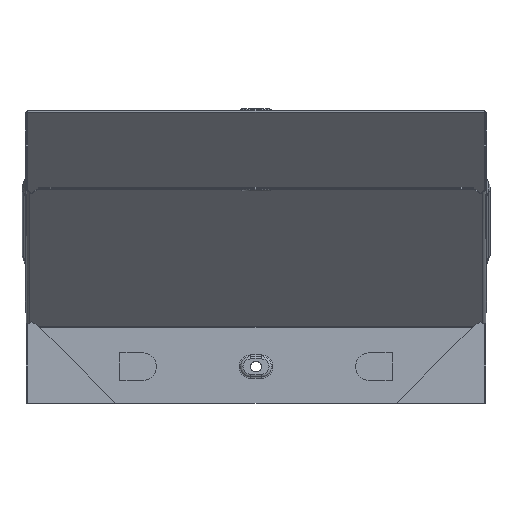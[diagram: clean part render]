
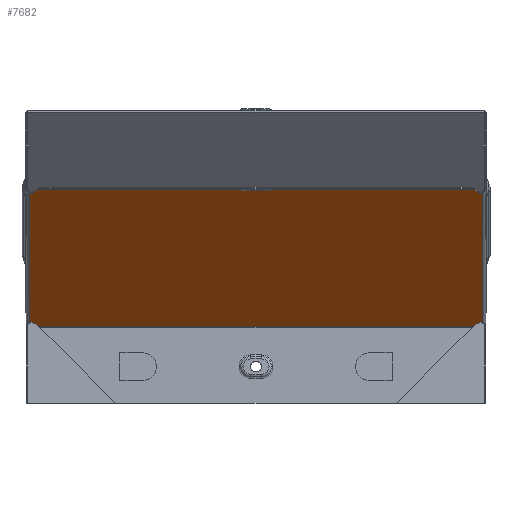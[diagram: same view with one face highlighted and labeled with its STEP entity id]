
A CAD part, top view. The second image highlights one B-rep face of the part: STEP entity #7682.
In plain terms, the highlighted planar face has unit normal (0, -0.707, 0.707).
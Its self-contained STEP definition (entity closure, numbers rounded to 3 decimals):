
#3 = ORIENTED_EDGE ( 'NONE', *, *, #3128, .T. ) ;
#135 = DIRECTION ( 'NONE',  ( 0., 0.707, -0.707 ) ) ;
#173 = CARTESIAN_POINT ( 'NONE',  ( 150.299, 69.208, 19.208 ) ) ;
#187 = CARTESIAN_POINT ( 'NONE',  ( -150.299, 69.208, 19.208 ) ) ;
#192 = CARTESIAN_POINT ( 'NONE',  ( -148.2, 67.724, 17.724 ) ) ;
#277 = DIRECTION ( 'NONE',  ( -0.707, 0.5, 0.5 ) ) ;
#507 = LINE ( 'NONE', #5249, #7022 ) ;
#568 = LINE ( 'NONE', #173, #5423 ) ;
#632 = VECTOR ( 'NONE', #5606, 1000. ) ;
#739 = PLANE ( 'NONE',  #1210 ) ;
#767 = DIRECTION ( 'NONE',  ( 0., 0.707, 0.707 ) ) ;
#878 = EDGE_CURVE ( 'NONE', #4898, #6347, #5250, .T. ) ;
#1136 = VERTEX_POINT ( 'NONE', #5712 ) ;
#1210 = AXIS2_PLACEMENT_3D ( 'NONE', #3913, #135, #767 ) ;
#1252 = CARTESIAN_POINT ( 'NONE',  ( 146.592, 66.588, 16.588 ) ) ;
#1271 = CARTESIAN_POINT ( 'NONE',  ( -146.592, -16.588, -66.588 ) ) ;
#1351 = DIRECTION ( 'NONE',  ( -0.707, 0.5, 0.5 ) ) ;
#1367 = VERTEX_POINT ( 'NONE', #5962 ) ;
#1538 = VECTOR ( 'NONE', #3502, 1000. ) ;
#1832 = VECTOR ( 'NONE', #6125, 1000. ) ;
#1860 = DIRECTION ( 'NONE',  ( 0.707, 0.5, 0.5 ) ) ;
#2045 = DIRECTION ( 'NONE',  ( 0., -0.707, -0.707 ) ) ;
#2255 = CARTESIAN_POINT ( 'NONE',  ( 148.2, -17.724, -67.724 ) ) ;
#2397 = VERTEX_POINT ( 'NONE', #5364 ) ;
#2467 = FACE_OUTER_BOUND ( 'NONE', #8109, .T. ) ;
#2519 = VERTEX_POINT ( 'NONE', #1252 ) ;
#2658 = VERTEX_POINT ( 'NONE', #7137 ) ;
#2718 = VECTOR ( 'NONE', #1860, 1000. ) ;
#2867 = ORIENTED_EDGE ( 'NONE', *, *, #6724, .T. ) ;
#3001 = CARTESIAN_POINT ( 'NONE',  ( 91.546, -55.512, -105.512 ) ) ;
#3032 = ORIENTED_EDGE ( 'NONE', *, *, #7722, .T. ) ;
#3128 = EDGE_CURVE ( 'NONE', #2658, #2519, #568, .T. ) ;
#3259 = LINE ( 'NONE', #187, #4858 ) ;
#3261 = DIRECTION ( 'NONE',  ( -0.707, -0.5, -0.5 ) ) ;
#3273 = EDGE_CURVE ( 'NONE', #1367, #7279, #6479, .T. ) ;
#3334 = ORIENTED_EDGE ( 'NONE', *, *, #878, .T. ) ;
#3406 = ORIENTED_EDGE ( 'NONE', *, *, #4830, .T. ) ;
#3502 = DIRECTION ( 'NONE',  ( 0.707, -0.5, -0.5 ) ) ;
#3641 = DIRECTION ( 'NONE',  ( -1., 0., 0. ) ) ;
#3719 = CARTESIAN_POINT ( 'NONE',  ( 148.2, 69.707, 19.707 ) ) ;
#3728 = VECTOR ( 'NONE', #277, 1000. ) ;
#3735 = VERTEX_POINT ( 'NONE', #192 ) ;
#3795 = ORIENTED_EDGE ( 'NONE', *, *, #4389, .T. ) ;
#3850 = ORIENTED_EDGE ( 'NONE', *, *, #6657, .T. ) ;
#3887 = LINE ( 'NONE', #5528, #1538 ) ;
#3913 = CARTESIAN_POINT ( 'NONE',  ( 148.2, 70., 20. ) ) ;
#3987 = VECTOR ( 'NONE', #7580, 1000. ) ;
#4011 = ORIENTED_EDGE ( 'NONE', *, *, #5309, .T. ) ;
#4054 = DIRECTION ( 'NONE',  ( 0.707, -0.5, -0.5 ) ) ;
#4229 = CARTESIAN_POINT ( 'NONE',  ( 148.2, -19.707, -69.707 ) ) ;
#4254 = DIRECTION ( 'NONE',  ( -1., 0., 0. ) ) ;
#4332 = CARTESIAN_POINT ( 'NONE',  ( 142.181, 69.707, 19.707 ) ) ;
#4333 = CARTESIAN_POINT ( 'NONE',  ( 146.592, -16.588, -66.588 ) ) ;
#4355 = ORIENTED_EDGE ( 'NONE', *, *, #3273, .F. ) ;
#4389 = EDGE_CURVE ( 'NONE', #8030, #2397, #4992, .T. ) ;
#4443 = CARTESIAN_POINT ( 'NONE',  ( 148.2, 70., 20. ) ) ;
#4598 = LINE ( 'NONE', #6850, #2718 ) ;
#4656 = CARTESIAN_POINT ( 'NONE',  ( 150.299, -19.208, -69.208 ) ) ;
#4745 = CARTESIAN_POINT ( 'NONE',  ( -142.181, -19.707, -69.707 ) ) ;
#4788 = EDGE_CURVE ( 'NONE', #7573, #7279, #3887, .T. ) ;
#4830 = EDGE_CURVE ( 'NONE', #5493, #7573, #4598, .T. ) ;
#4858 = VECTOR ( 'NONE', #1351, 1000. ) ;
#4869 = EDGE_CURVE ( 'NONE', #1367, #4898, #8033, .T. ) ;
#4898 = VERTEX_POINT ( 'NONE', #4333 ) ;
#4983 = CARTESIAN_POINT ( 'NONE',  ( -148.2, -17.724, -67.724 ) ) ;
#4992 = LINE ( 'NONE', #3719, #5591 ) ;
#5043 = EDGE_CURVE ( 'NONE', #2658, #6347, #5678, .T. ) ;
#5049 = VECTOR ( 'NONE', #4054, 1000. ) ;
#5224 = CARTESIAN_POINT ( 'NONE',  ( 91.546, 105.512, 55.512 ) ) ;
#5249 = CARTESIAN_POINT ( 'NONE',  ( -148.2, 70., 20. ) ) ;
#5250 = LINE ( 'NONE', #4656, #5049 ) ;
#5309 = EDGE_CURVE ( 'NONE', #2397, #1136, #5383, .T. ) ;
#5364 = CARTESIAN_POINT ( 'NONE',  ( -142.181, 69.707, 19.707 ) ) ;
#5383 = LINE ( 'NONE', #7990, #1832 ) ;
#5423 = VECTOR ( 'NONE', #3261, 1000. ) ;
#5493 = VERTEX_POINT ( 'NONE', #4983 ) ;
#5528 = CARTESIAN_POINT ( 'NONE',  ( -91.546, -55.512, -105.512 ) ) ;
#5591 = VECTOR ( 'NONE', #3641, 1000. ) ;
#5606 = DIRECTION ( 'NONE',  ( 0.707, 0.5, 0.5 ) ) ;
#5678 = LINE ( 'NONE', #4443, #3987 ) ;
#5712 = CARTESIAN_POINT ( 'NONE',  ( -146.592, 66.588, 16.588 ) ) ;
#5962 = CARTESIAN_POINT ( 'NONE',  ( 142.181, -19.707, -69.707 ) ) ;
#6125 = DIRECTION ( 'NONE',  ( -0.707, -0.5, -0.5 ) ) ;
#6347 = VERTEX_POINT ( 'NONE', #2255 ) ;
#6363 = ORIENTED_EDGE ( 'NONE', *, *, #5043, .F. ) ;
#6479 = LINE ( 'NONE', #4229, #7277 ) ;
#6569 = ORIENTED_EDGE ( 'NONE', *, *, #4869, .T. ) ;
#6657 = EDGE_CURVE ( 'NONE', #3735, #5493, #507, .T. ) ;
#6724 = EDGE_CURVE ( 'NONE', #1136, #3735, #3259, .T. ) ;
#6850 = CARTESIAN_POINT ( 'NONE',  ( -150.299, -19.208, -69.208 ) ) ;
#7022 = VECTOR ( 'NONE', #2045, 1000. ) ;
#7137 = CARTESIAN_POINT ( 'NONE',  ( 148.2, 67.724, 17.724 ) ) ;
#7277 = VECTOR ( 'NONE', #4254, 1000. ) ;
#7279 = VERTEX_POINT ( 'NONE', #4745 ) ;
#7335 = ORIENTED_EDGE ( 'NONE', *, *, #4788, .T. ) ;
#7573 = VERTEX_POINT ( 'NONE', #1271 ) ;
#7580 = DIRECTION ( 'NONE',  ( 0., -0.707, -0.707 ) ) ;
#7682 = ADVANCED_FACE ( 'NONE', ( #2467 ), #739, .F. ) ;
#7689 = LINE ( 'NONE', #5224, #3728 ) ;
#7722 = EDGE_CURVE ( 'NONE', #2519, #8030, #7689, .T. ) ;
#7990 = CARTESIAN_POINT ( 'NONE',  ( -91.546, 105.512, 55.512 ) ) ;
#8030 = VERTEX_POINT ( 'NONE', #4332 ) ;
#8033 = LINE ( 'NONE', #3001, #632 ) ;
#8109 = EDGE_LOOP ( 'NONE', ( #3, #3032, #3795, #4011, #2867, #3850, #3406, #7335, #4355, #6569, #3334, #6363 ) ) ;
